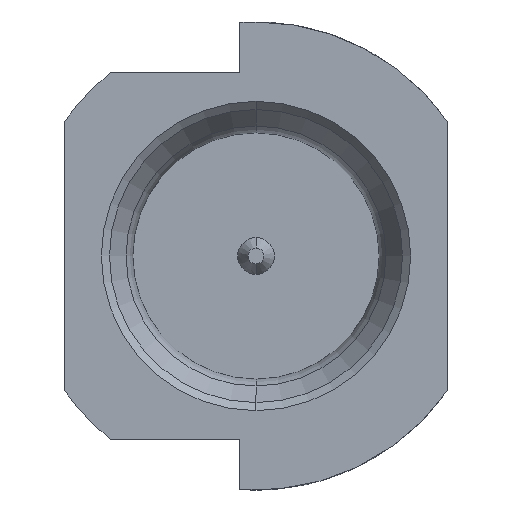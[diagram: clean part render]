
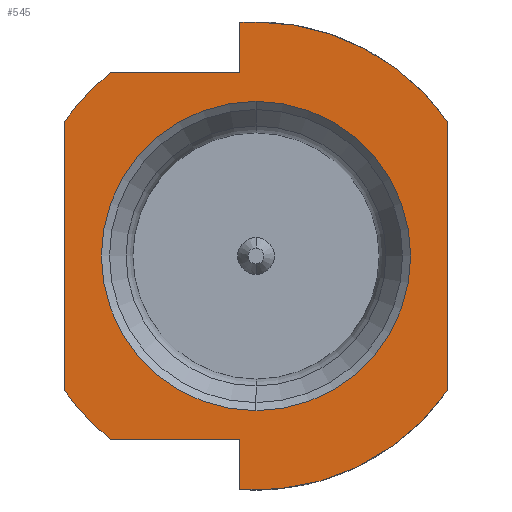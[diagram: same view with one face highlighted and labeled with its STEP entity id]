
A CAD part, left-side view. The second image highlights one B-rep face of the part: STEP entity #545.
In plain terms, the highlighted planar face has unit normal (-1, 0, 0).
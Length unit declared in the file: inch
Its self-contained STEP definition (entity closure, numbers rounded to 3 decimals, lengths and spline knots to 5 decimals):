
#5 = AXIS2_PLACEMENT_3D ( 'NONE', #1714, #1158, #870 ) ;
#19 = DIRECTION ( 'NONE',  ( 0., 0., 1. ) ) ;
#39 = CIRCLE ( 'NONE', #1384, 0.0575 ) ;
#48 = CARTESIAN_POINT ( 'NONE',  ( 0., 0.004, 0.045 ) ) ;
#67 = VECTOR ( 'NONE', #603, 39.37008 ) ;
#92 = ORIENTED_EDGE ( 'NONE', *, *, #1560, .T. ) ;
#102 = ORIENTED_EDGE ( 'NONE', *, *, #407, .T. ) ;
#104 = EDGE_CURVE ( 'NONE', #1392, #329, #1412, .T. ) ;
#111 = LINE ( 'NONE', #452, #67 ) ;
#122 = CARTESIAN_POINT ( 'NONE',  ( 0., 0.037, 0.045 ) ) ;
#142 = DIRECTION ( 'NONE',  ( 0., 0., 1. ) ) ;
#157 = ORIENTED_EDGE ( 'NONE', *, *, #1463, .T. ) ;
#184 = CARTESIAN_POINT ( 'NONE',  ( 0., 0.004, 0.05736 ) ) ;
#250 = EDGE_CURVE ( 'NONE', #496, #1406, #1265, .T. ) ;
#255 = CARTESIAN_POINT ( 'NONE',  ( 0., 0., 0. ) ) ;
#280 = CARTESIAN_POINT ( 'NONE',  ( 0., 0., 0. ) ) ;
#287 = ORIENTED_EDGE ( 'NONE', *, *, #517, .T. ) ;
#305 = DIRECTION ( 'NONE',  ( 0., 0., -1. ) ) ;
#313 = CARTESIAN_POINT ( 'NONE',  ( 0., 0.038, 0. ) ) ;
#329 = VERTEX_POINT ( 'NONE', #1407 ) ;
#349 = DIRECTION ( 'NONE',  ( -1., 0., 0. ) ) ;
#362 = LINE ( 'NONE', #591, #1914 ) ;
#363 = CARTESIAN_POINT ( 'NONE',  ( 0., 0.004, 0.045 ) ) ;
#366 = DIRECTION ( 'NONE',  ( 0., 0., -1. ) ) ;
#378 = AXIS2_PLACEMENT_3D ( 'NONE', #255, #1296, #405 ) ;
#394 = VERTEX_POINT ( 'NONE', #777 ) ;
#405 = DIRECTION ( 'NONE',  ( 0., 0., 1. ) ) ;
#407 = EDGE_CURVE ( 'NONE', #680, #634, #39, .T. ) ;
#422 = VECTOR ( 'NONE', #466, 39.37008 ) ;
#426 = DIRECTION ( 'NONE',  ( 0., 1., 0. ) ) ;
#432 = DIRECTION ( 'NONE',  ( 0., 0., 1. ) ) ;
#435 = VECTOR ( 'NONE', #305, 39.37008 ) ;
#437 = AXIS2_PLACEMENT_3D ( 'NONE', #1817, #912, #19 ) ;
#439 = EDGE_CURVE ( 'NONE', #840, #680, #836, .T. ) ;
#443 = DIRECTION ( 'NONE',  ( 0., 0., 1. ) ) ;
#452 = CARTESIAN_POINT ( 'NONE',  ( 0., 0.047, 0.035 ) ) ;
#466 = DIRECTION ( 'NONE',  ( 0., -1., 0. ) ) ;
#478 = DIRECTION ( 'NONE',  ( 0., 0., -1. ) ) ;
#490 = CIRCLE ( 'NONE', #378, 0.038 ) ;
#496 = VERTEX_POINT ( 'NONE', #527 ) ;
#506 = VERTEX_POINT ( 'NONE', #681 ) ;
#517 = EDGE_CURVE ( 'NONE', #634, #1315, #1389, .T. ) ;
#527 = CARTESIAN_POINT ( 'NONE',  ( 0., 0.03579, -0.045 ) ) ;
#545 = ADVANCED_FACE ( 'NONE', ( #1578, #1174 ), #618, .F. ) ;
#555 = CIRCLE ( 'NONE', #437, 0.0575 ) ;
#556 = EDGE_LOOP ( 'NONE', ( #1618, #1405 ) ) ;
#567 = ORIENTED_EDGE ( 'NONE', *, *, #1835, .T. ) ;
#591 = CARTESIAN_POINT ( 'NONE',  ( 0., -0.047, 0.05417 ) ) ;
#603 = DIRECTION ( 'NONE',  ( 0., 0., -1. ) ) ;
#618 = PLANE ( 'NONE',  #1372 ) ;
#634 = VERTEX_POINT ( 'NONE', #184 ) ;
#666 = CARTESIAN_POINT ( 'NONE',  ( 0., 0., 0. ) ) ;
#680 = VERTEX_POINT ( 'NONE', #792 ) ;
#681 = CARTESIAN_POINT ( 'NONE',  ( 0., 0.03579, 0.045 ) ) ;
#690 = ORIENTED_EDGE ( 'NONE', *, *, #847, .T. ) ;
#745 = ORIENTED_EDGE ( 'NONE', *, *, #1769, .T. ) ;
#765 = AXIS2_PLACEMENT_3D ( 'NONE', #280, #1317, #432 ) ;
#777 = CARTESIAN_POINT ( 'NONE',  ( 0., 0.047, -0.03312 ) ) ;
#792 = CARTESIAN_POINT ( 'NONE',  ( 0., 0., 0.0575 ) ) ;
#795 = EDGE_CURVE ( 'NONE', #329, #1392, #490, .T. ) ;
#806 = VERTEX_POINT ( 'NONE', #987 ) ;
#812 = DIRECTION ( 'NONE',  ( 0., 0., 1. ) ) ;
#836 = CIRCLE ( 'NONE', #1288, 0.0575 ) ;
#840 = VERTEX_POINT ( 'NONE', #1741 ) ;
#847 = EDGE_CURVE ( 'NONE', #1406, #1480, #1246, .T. ) ;
#859 = VECTOR ( 'NONE', #366, 39.37008 ) ;
#870 = DIRECTION ( 'NONE',  ( 0., 0., 1. ) ) ;
#894 = VERTEX_POINT ( 'NONE', #1121 ) ;
#900 = CARTESIAN_POINT ( 'NONE',  ( 0., 0.037, -0.045 ) ) ;
#912 = DIRECTION ( 'NONE',  ( -1., 0., 0. ) ) ;
#987 = CARTESIAN_POINT ( 'NONE',  ( 0., -0.047, -0.03312 ) ) ;
#990 = CIRCLE ( 'NONE', #765, 0.0575 ) ;
#1029 = DIRECTION ( 'NONE',  ( -1., 0., 0. ) ) ;
#1121 = CARTESIAN_POINT ( 'NONE',  ( 0., 0.047, 0.03312 ) ) ;
#1150 = CIRCLE ( 'NONE', #1451, 0.0575 ) ;
#1158 = DIRECTION ( 'NONE',  ( -1., 0., 0. ) ) ;
#1174 = FACE_OUTER_BOUND ( 'NONE', #1459, .T. ) ;
#1244 = CARTESIAN_POINT ( 'NONE',  ( 0., 0., 0. ) ) ;
#1246 = LINE ( 'NONE', #1408, #859 ) ;
#1265 = LINE ( 'NONE', #900, #422 ) ;
#1282 = ORIENTED_EDGE ( 'NONE', *, *, #1857, .T. ) ;
#1288 = AXIS2_PLACEMENT_3D ( 'NONE', #666, #1692, #812 ) ;
#1296 = DIRECTION ( 'NONE',  ( -1., 0., 0. ) ) ;
#1308 = ORIENTED_EDGE ( 'NONE', *, *, #1785, .T. ) ;
#1315 = VERTEX_POINT ( 'NONE', #48 ) ;
#1317 = DIRECTION ( 'NONE',  ( -1., 0., 0. ) ) ;
#1359 = DIRECTION ( 'NONE',  ( 1., 0., 0. ) ) ;
#1372 = AXIS2_PLACEMENT_3D ( 'NONE', #313, #1359, #478 ) ;
#1384 = AXIS2_PLACEMENT_3D ( 'NONE', #1244, #349, #1390 ) ;
#1386 = LINE ( 'NONE', #122, #1787 ) ;
#1389 = LINE ( 'NONE', #363, #435 ) ;
#1390 = DIRECTION ( 'NONE',  ( 0., 0., 1. ) ) ;
#1392 = VERTEX_POINT ( 'NONE', #1679 ) ;
#1396 = ORIENTED_EDGE ( 'NONE', *, *, #250, .T. ) ;
#1405 = ORIENTED_EDGE ( 'NONE', *, *, #104, .F. ) ;
#1406 = VERTEX_POINT ( 'NONE', #1619 ) ;
#1407 = CARTESIAN_POINT ( 'NONE',  ( 0., 0., 0.038 ) ) ;
#1408 = CARTESIAN_POINT ( 'NONE',  ( 0., 0.004, -0.045 ) ) ;
#1412 = CIRCLE ( 'NONE', #5, 0.038 ) ;
#1451 = AXIS2_PLACEMENT_3D ( 'NONE', #1938, #1029, #142 ) ;
#1459 = EDGE_LOOP ( 'NONE', ( #1308, #1282, #1513, #102, #287, #745, #92, #157, #567, #1396, #690 ) ) ;
#1463 = EDGE_CURVE ( 'NONE', #894, #394, #111, .T. ) ;
#1480 = VERTEX_POINT ( 'NONE', #1797 ) ;
#1513 = ORIENTED_EDGE ( 'NONE', *, *, #439, .T. ) ;
#1560 = EDGE_CURVE ( 'NONE', #506, #894, #555, .T. ) ;
#1578 = FACE_BOUND ( 'NONE', #556, .T. ) ;
#1618 = ORIENTED_EDGE ( 'NONE', *, *, #795, .F. ) ;
#1619 = CARTESIAN_POINT ( 'NONE',  ( 0., 0.004, -0.045 ) ) ;
#1679 = CARTESIAN_POINT ( 'NONE',  ( 0., 0., -0.038 ) ) ;
#1692 = DIRECTION ( 'NONE',  ( -1., 0., 0. ) ) ;
#1714 = CARTESIAN_POINT ( 'NONE',  ( 0., 0., 0. ) ) ;
#1741 = CARTESIAN_POINT ( 'NONE',  ( 0., -0.047, 0.03312 ) ) ;
#1769 = EDGE_CURVE ( 'NONE', #1315, #506, #1386, .T. ) ;
#1785 = EDGE_CURVE ( 'NONE', #1480, #806, #990, .T. ) ;
#1787 = VECTOR ( 'NONE', #426, 39.37008 ) ;
#1797 = CARTESIAN_POINT ( 'NONE',  ( 0., 0.004, -0.05736 ) ) ;
#1817 = CARTESIAN_POINT ( 'NONE',  ( 0., 0., 0. ) ) ;
#1835 = EDGE_CURVE ( 'NONE', #394, #496, #1150, .T. ) ;
#1857 = EDGE_CURVE ( 'NONE', #806, #840, #362, .T. ) ;
#1914 = VECTOR ( 'NONE', #443, 39.37008 ) ;
#1938 = CARTESIAN_POINT ( 'NONE',  ( 0., 0., 0. ) ) ;
